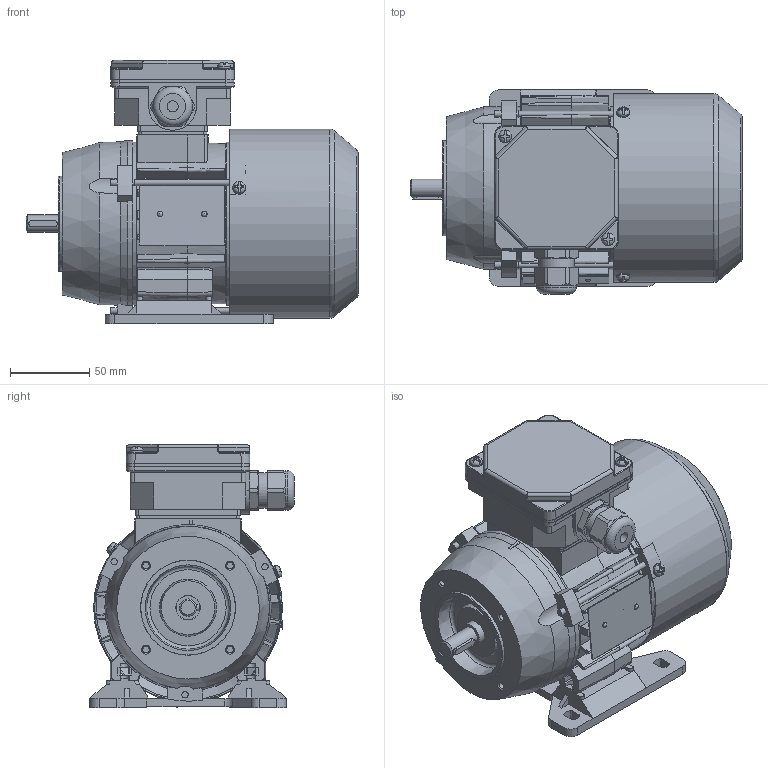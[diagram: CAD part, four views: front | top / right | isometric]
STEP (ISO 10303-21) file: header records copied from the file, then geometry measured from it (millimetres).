
FILE_DESCRIPTION(/* description */ ('Unknown'),/* implementation_level */ '2;1');
FILE_NAME(/* name */ '2SIEL63-4B2',/* time_stamp */ '2021-04-12T11:45:01+02:00',/* author */ ('Unknown'),/* organization */ ('Unknown'),/* preprocessor_version */ 'ST-DEVELOPER v16.7',/* originating_system */ 'Solid Edge',/* authorisation */ 'Unknown');
FILE_SCHEMA (('AUTOMOTIVE_DESIGN {1 0 10303 214 3 1 1}'));
Length unit declared in the file: millimetre
Products named in the file (1): 2SIEL63-4B2
Bounding box: 209.49 x 129 x 166 mm (x, y, z)
Volume: 542539.5 mm3; surface area: 330762.7 mm2
Topology: 2 solids, 2 shells, 1909 faces, 5422 edges, 3533 vertices
Faces by surface type: plane 995, cylinder 559, cone 126, torus 116, bspline 92, sphere 21
Full cylindrical faces by diameter (mm): 2.4 x2, 3.7 x7, 4 x8, 4.134 x4, 4.5 x3, 4.8 x2, 5 x2, 5.8 x4, 7 x4, 8 x6, 10.999 x1, 12.899 x1, 13.099 x1, 14.998 x2, 15.4 x2, 18.998 x2, 19.498 x1, 19.998 x1, 20.098 x1, 21.518 x4, 22.3 x1, 25 x1, 28 x2, 28.48 x4, 31 x2, 32 x1, 35 x3, 60 x1, 71.993 x1, 99 x2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
Entity records: 77659 total; most frequent: CARTESIAN_POINT 16513, ORIENTED_EDGE 10230, DIRECTION 9500, EDGE_CURVE 5115, AXIS2_PLACEMENT_3D 3459, VERTEX_POINT 3424, LINE 2582, VECTOR 2582
